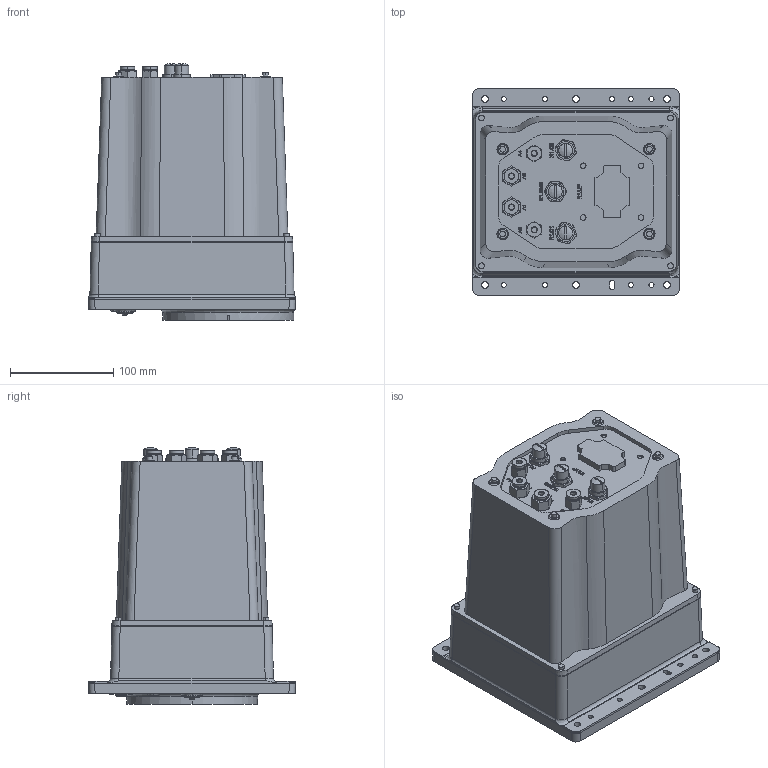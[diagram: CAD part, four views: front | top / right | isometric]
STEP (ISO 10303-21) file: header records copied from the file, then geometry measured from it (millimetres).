
FILE_DESCRIPTION (( 'STEP AP214' ), '1' );
FILE_NAME ('Link0_C550.STEP', '2019-05-06T02:21:26', ( 'ABB' ), ( 'ABB' ), 'SwSTEP 2.0', 'SolidWorks 2018', '' );
FILE_SCHEMA (( 'AUTOMOTIVE_DESIGN' ));
Length unit declared in the file: millimetre
Products named in the file (1): Link0_C550
Bounding box: 200 x 200 x 248.52 mm (x, y, z)
Volume: 6020580.3 mm3; surface area: 234218.4 mm2
Topology: 1 solids, 1 shells, 910 faces, 2438 edges, 1631 vertices
Faces by surface type: plane 451, bspline 163, cylinder 138, cone 135, torus 20, sphere 3
Entity records: 47516 total; most frequent: CARTESIAN_POINT 27079, ORIENTED_EDGE 4872, DIRECTION 3046, EDGE_CURVE 2436, VERTEX_POINT 1631, LINE 1132, VECTOR 1132, B_SPLINE_CURVE_WITH_KNOTS 1065
